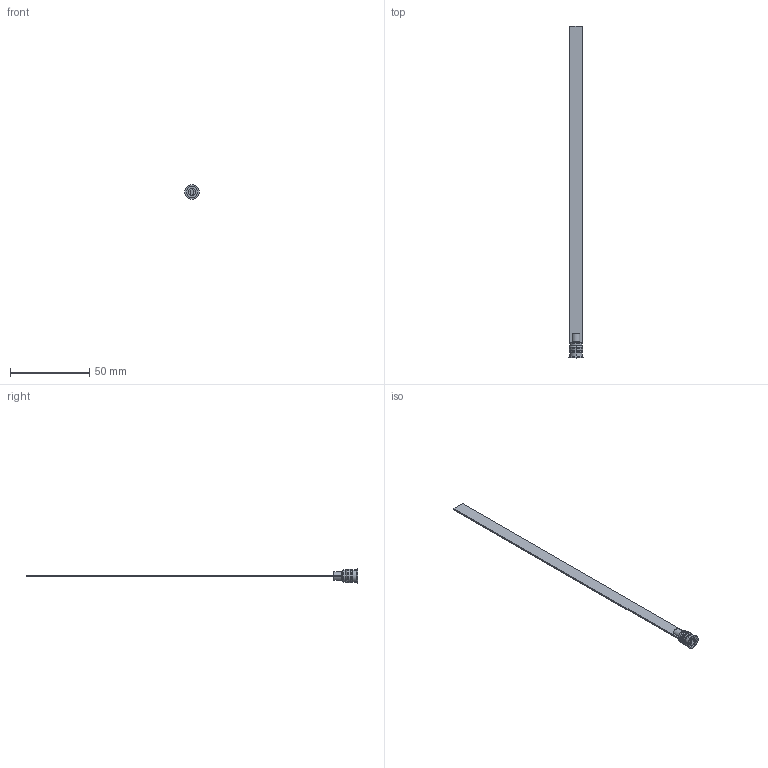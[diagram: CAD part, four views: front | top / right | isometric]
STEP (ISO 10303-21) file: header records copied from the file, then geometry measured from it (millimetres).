
FILE_DESCRIPTION (( 'STEP AP203' ), '1' );
FILE_NAME ('RL-8Fx200.STEP', '2015-12-01T16:06:21', ( 'Balzi' ), ( '' ), 'SwSTEP 2.0', 'SolidWorks 2015', '' );
FILE_SCHEMA (( 'CONFIG_CONTROL_DESIGN' ));
Length unit declared in the file: millimetre
Products named in the file (1): RL-8Fx200
Bounding box: 9 x 209.5 x 9 mm (x, y, z)
Volume: 2052.2 mm3; surface area: 4086.3 mm2
Topology: 1 solids, 1 shells, 72 faces, 171 edges, 105 vertices
Faces by surface type: plane 30, cone 17, cylinder 17, torus 8
Entity records: 2165 total; most frequent: CARTESIAN_POINT 399, DIRECTION 370, ORIENTED_EDGE 342, EDGE_CURVE 171, AXIS2_PLACEMENT_3D 140, VERTEX_POINT 105, VECTOR 90, LINE 90
